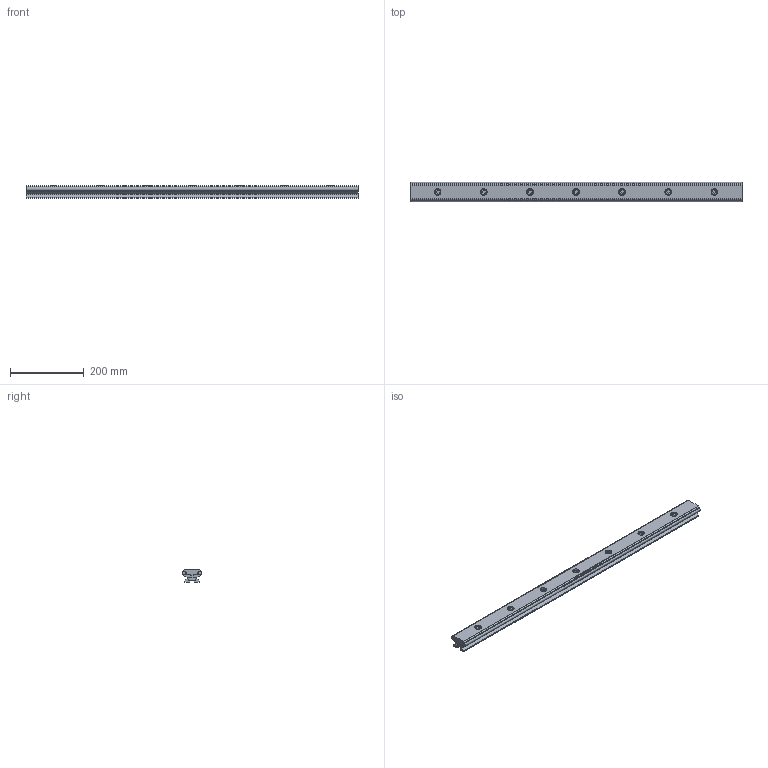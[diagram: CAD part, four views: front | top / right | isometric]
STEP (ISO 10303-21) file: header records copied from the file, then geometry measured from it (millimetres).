
FILE_DESCRIPTION(/* description */ ('Unknown'),/* implementation_level */ '2;1');
FILE_NAME(/* name */ 'HLFS52_900_Lang_mit_Bohrungen',/* time_stamp */ '2022-01-26T16:38:32+01:00',/* author */ ('Unknown'),/* organization */ ('Unknown'),/* preprocessor_version */ 'ST-DEVELOPER v16.7',/* originating_system */ 'Solid Edge',/* authorisation */ 'Unknown');
FILE_SCHEMA (('AUTOMOTIVE_DESIGN {1 0 10303 214 3 1 1}'));
Length unit declared in the file: millimetre
Products named in the file (6): HLFS52_900_Lang_mit_Bohrungen; Profil_oben-900_Lang-mit_Bohrungen_20220124; Welle_Dm_10-900_lang; Profil_unten-900_Lang_20220122; din_7984_m_10x20_20220121; DIN_557_Vierkantmutter_M10_20220121
Assembly tree (18 placements, depth 2):
  HLFS52_900_Lang_mit_Bohrungen
    Profil_oben-900_Lang-mit_Bohrungen_20220124
    Welle_Dm_10-900_lang  x2
    Profil_unten-900_Lang_20220122
    din_7984_m_10x20_20220121  x7
    DIN_557_Vierkantmutter_M10_20220121  x7
Bounding box: 900 x 52 x 34.3 mm (x, y, z)
Volume: 1053181.1 mm3; surface area: 346497.3 mm2
Topology: 18 solids, 18 shells, 339 faces, 825 edges, 543 vertices
Faces by surface type: plane 195, cylinder 123, cone 14, torus 7
Full cylindrical faces by diameter (mm): 8.376 x14, 10 x16, 11 x7, 16 x7, 18 x7
Entity records: 6204 total; most frequent: CARTESIAN_POINT 1221, DIRECTION 990, ORIENTED_EDGE 970, EDGE_CURVE 485, AXIS2_PLACEMENT_3D 356, VERTEX_POINT 335, LINE 278, VECTOR 278
